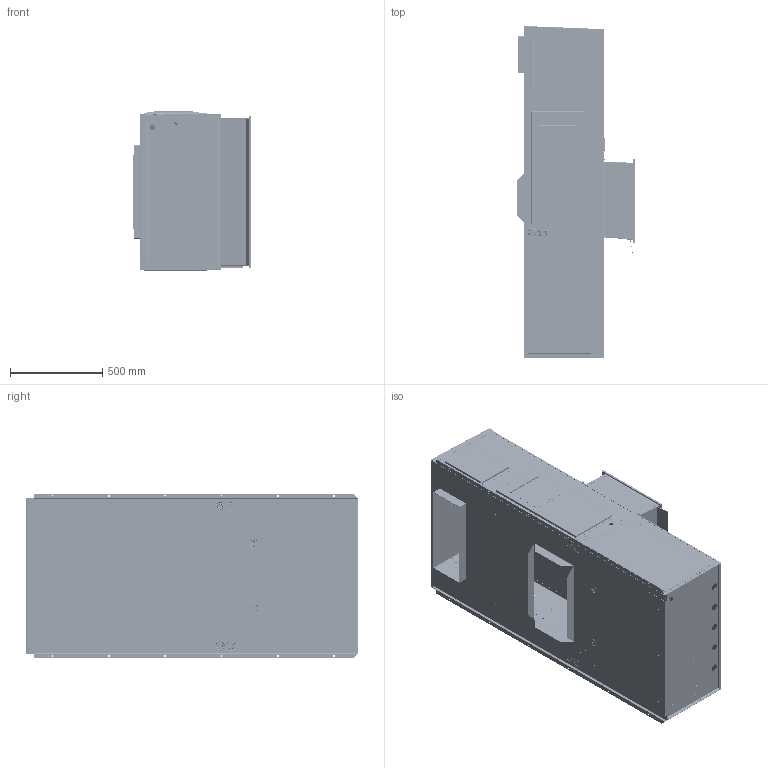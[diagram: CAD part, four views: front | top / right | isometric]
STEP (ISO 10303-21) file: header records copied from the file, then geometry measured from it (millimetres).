
FILE_DESCRIPTION (( 'STEP AP203' ), '1' );
FILE_NAME ('STEP_300_7.STEP', '2016-06-16T14:59:44', ( '' ), ( '' ), 'SwSTEP 2.0', 'SolidWorks 2016', '' );
FILE_SCHEMA (( 'CONFIG_CONTROL_DESIGN' ));
Products named in the file (1): STEP_300_7
Bounding box: 638.31 x 1794.86 x 888.56 mm (x, y, z)
Volume: 14665932.1 mm3; surface area: 16316534.4 mm2
Topology: 66 solids, 66 shells, 11142 faces, 29411 edges, 18541 vertices
Faces by surface type: plane 4869, cylinder 2905, bspline 2282, torus 880, cone 191, sphere 15
Entity records: 459836 total; most frequent: CARTESIAN_POINT 203470, ORIENTED_EDGE 58720, DIRECTION 44743, EDGE_CURVE 29360, VERTEX_POINT 18534, VECTOR 15849, LINE 15849, AXIS2_PLACEMENT_3D 14447
